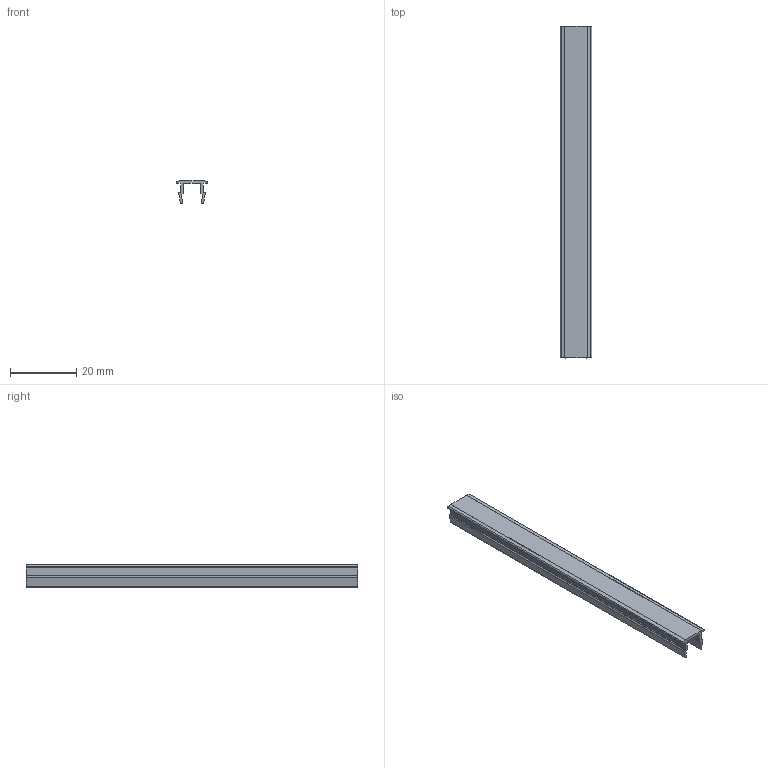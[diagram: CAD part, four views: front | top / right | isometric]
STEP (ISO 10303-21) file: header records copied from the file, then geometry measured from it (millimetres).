
FILE_DESCRIPTION(/* description */ (''),/* implementation_level */ '2;1');
FILE_NAME(/* name */ 'D:\cadd\new~產品型錄\配件\6系列\AMF-06H-1.stp',/* time_stamp */ '2016-12-09T14:21:55+08:00',/* author */ ('Owner'),/* organization */ (''),/* preprocessor_version */ 'ST-DEVELOPER v15.2',/* originating_system */ 'Autodesk Inventor 2014',/* authorisation */ '');
FILE_SCHEMA (('AUTOMOTIVE_DESIGN { 1 0 10303 214 3 1 1 }'));
Length unit declared in the file: millimetre
Products named in the file (1): AMF-06H-1
Bounding box: 9.5 x 100 x 6.76 mm (x, y, z)
Volume: 1745.7 mm3; surface area: 4466.9 mm2
Topology: 1 solids, 1 shells, 40 faces, 114 edges, 76 vertices
Faces by surface type: plane 22, cylinder 18
Entity records: 1335 total; most frequent: DIRECTION 232, CARTESIAN_POINT 231, ORIENTED_EDGE 228, EDGE_CURVE 114, LINE 78, VECTOR 78, AXIS2_PLACEMENT_3D 77, VERTEX_POINT 76
